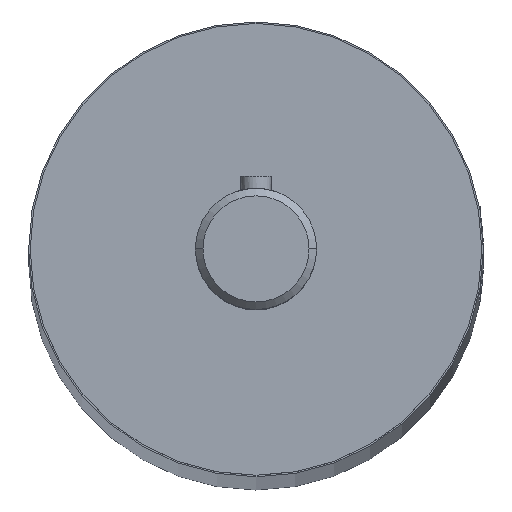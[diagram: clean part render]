
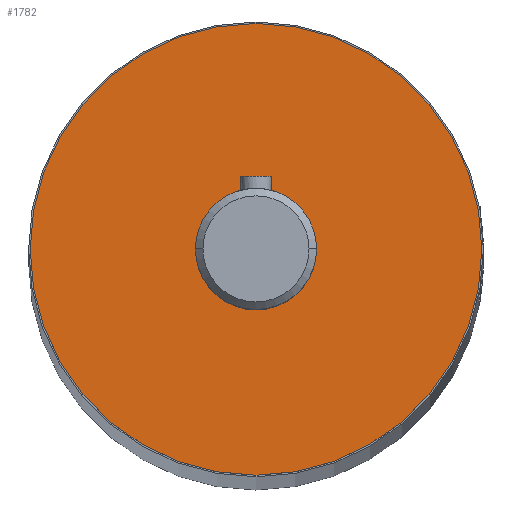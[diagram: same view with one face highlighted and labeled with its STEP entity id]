
A CAD part, top view. The second image highlights one B-rep face of the part: STEP entity #1782.
In plain terms, the highlighted planar face has unit normal (0, 0, 1).
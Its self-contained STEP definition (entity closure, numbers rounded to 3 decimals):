
#7 = CARTESIAN_POINT ( 'NONE',  ( 0., 0., 252.5 ) ) ;
#78 = DIRECTION ( 'NONE',  ( 0., 0., 1. ) ) ;
#103 = PLANE ( 'NONE',  #1671 ) ;
#116 = FACE_BOUND ( 'NONE', #852, .T. ) ;
#158 = CARTESIAN_POINT ( 'NONE',  ( 14.9, 0., 252.5 ) ) ;
#169 = AXIS2_PLACEMENT_3D ( 'NONE', #551, #559, #963 ) ;
#348 = CIRCLE ( 'NONE', #476, 14.9 ) ;
#393 = VERTEX_POINT ( 'NONE', #1628 ) ;
#425 = DIRECTION ( 'NONE',  ( 0., 0., 1. ) ) ;
#476 = AXIS2_PLACEMENT_3D ( 'NONE', #691, #1129, #980 ) ;
#551 = CARTESIAN_POINT ( 'NONE',  ( 0., 0., 252.5 ) ) ;
#552 = CIRCLE ( 'NONE', #1236, 14.9 ) ;
#559 = DIRECTION ( 'NONE',  ( 0., 0., 1. ) ) ;
#570 = EDGE_CURVE ( 'NONE', #393, #1390, #1169, .T. ) ;
#580 = EDGE_CURVE ( 'NONE', #1828, #835, #348, .T. ) ;
#678 = CARTESIAN_POINT ( 'NONE',  ( 0., 0., 252.5 ) ) ;
#691 = CARTESIAN_POINT ( 'NONE',  ( 0., 0., 252.5 ) ) ;
#789 = EDGE_CURVE ( 'NONE', #835, #1828, #552, .T. ) ;
#811 = AXIS2_PLACEMENT_3D ( 'NONE', #7, #425, #1009 ) ;
#835 = VERTEX_POINT ( 'NONE', #158 ) ;
#852 = EDGE_LOOP ( 'NONE', ( #1253, #1797 ) ) ;
#923 = EDGE_LOOP ( 'NONE', ( #1012, #1537 ) ) ;
#939 = EDGE_CURVE ( 'NONE', #1390, #393, #1651, .T. ) ;
#963 = DIRECTION ( 'NONE',  ( 1., 0., 0. ) ) ;
#980 = DIRECTION ( 'NONE',  ( 1., 0., 0. ) ) ;
#1009 = DIRECTION ( 'NONE',  ( 1., 0., 0. ) ) ;
#1012 = ORIENTED_EDGE ( 'NONE', *, *, #580, .T. ) ;
#1121 = FACE_OUTER_BOUND ( 'NONE', #923, .T. ) ;
#1129 = DIRECTION ( 'NONE',  ( 0., 0., 1. ) ) ;
#1169 = CIRCLE ( 'NONE', #169, 4. ) ;
#1236 = AXIS2_PLACEMENT_3D ( 'NONE', #1862, #78, #1699 ) ;
#1253 = ORIENTED_EDGE ( 'NONE', *, *, #939, .F. ) ;
#1390 = VERTEX_POINT ( 'NONE', #1592 ) ;
#1412 = DIRECTION ( 'NONE',  ( 1., 0., 0. ) ) ;
#1537 = ORIENTED_EDGE ( 'NONE', *, *, #789, .T. ) ;
#1592 = CARTESIAN_POINT ( 'NONE',  ( -4., 0., 252.5 ) ) ;
#1628 = CARTESIAN_POINT ( 'NONE',  ( 4., 0., 252.5 ) ) ;
#1651 = CIRCLE ( 'NONE', #811, 4. ) ;
#1671 = AXIS2_PLACEMENT_3D ( 'NONE', #678, #1852, #1412 ) ;
#1699 = DIRECTION ( 'NONE',  ( 1., 0., 0. ) ) ;
#1782 = ADVANCED_FACE ( 'NONE', ( #116, #1121 ), #103, .T. ) ;
#1797 = ORIENTED_EDGE ( 'NONE', *, *, #570, .F. ) ;
#1828 = VERTEX_POINT ( 'NONE', #1922 ) ;
#1852 = DIRECTION ( 'NONE',  ( 0., 0., 1. ) ) ;
#1862 = CARTESIAN_POINT ( 'NONE',  ( 0., 0., 252.5 ) ) ;
#1922 = CARTESIAN_POINT ( 'NONE',  ( -14.9, 0., 252.5 ) ) ;
